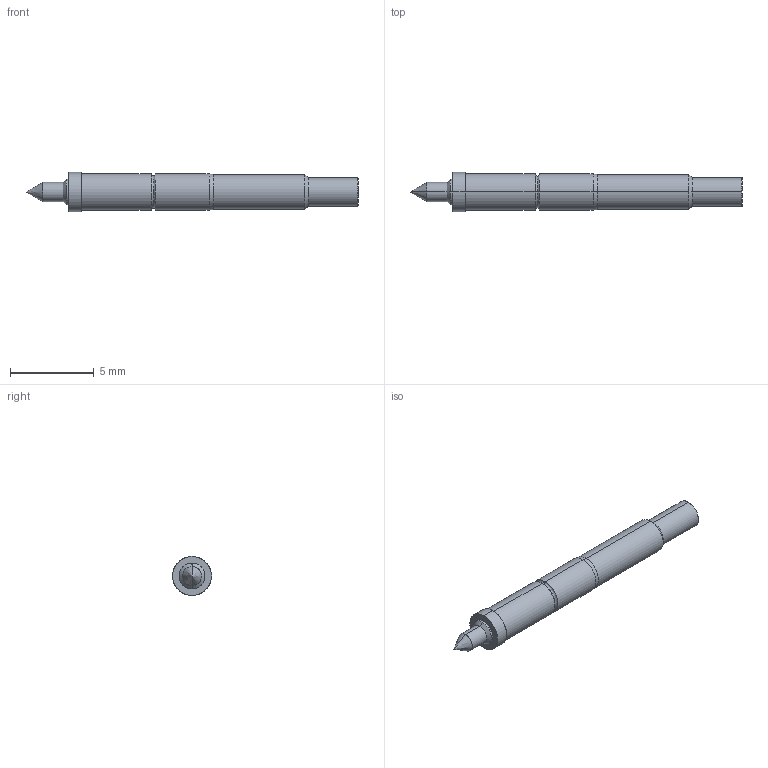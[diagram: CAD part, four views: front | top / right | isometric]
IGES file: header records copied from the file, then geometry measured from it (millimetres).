
Start section: SolidWorks IGES file using analytic representation for surfaces
Global section: file name: O:\PYLON\IGES FILES\F-S\F-S-C.IGS; native system: SolidWorks 2015; preprocessor: SolidWorks 2015; author: kgolden; date: 171024.100010; units: inch
Bounding box: 19.81 x 2.34 x 2.34 mm (x, y, z)
Surface area: 139.4 mm2 (no closed solid volume)
Topology: 0 solids, 0 shells, 32 faces, 272 edges, 270 vertices
Faces by surface type: revolution 24, bspline 8
